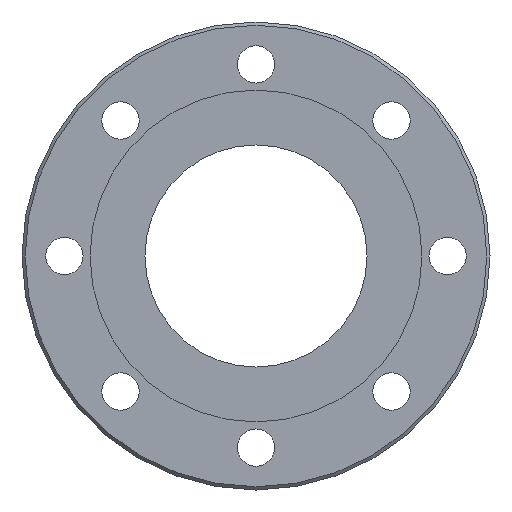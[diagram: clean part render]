
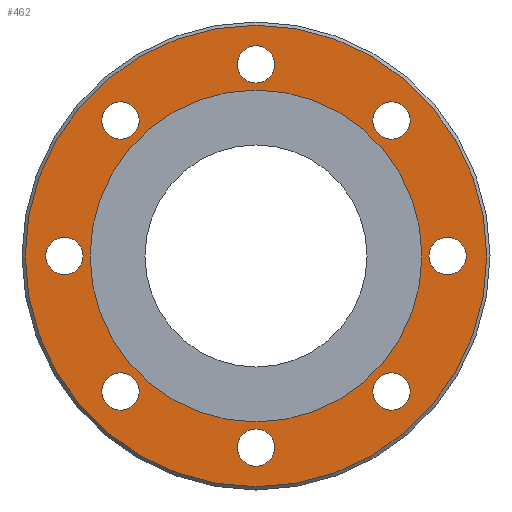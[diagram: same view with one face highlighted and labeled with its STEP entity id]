
A CAD part, left-side view. The second image highlights one B-rep face of the part: STEP entity #462.
In plain terms, the highlighted planar face has unit normal (-1, 0, 0).
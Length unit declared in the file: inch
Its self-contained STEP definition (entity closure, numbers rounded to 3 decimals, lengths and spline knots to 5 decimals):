
#15=FACE_BOUND('',#83,.T.);
#16=FACE_BOUND('',#84,.T.);
#17=FACE_BOUND('',#85,.T.);
#18=FACE_BOUND('',#86,.T.);
#19=FACE_BOUND('',#87,.T.);
#20=FACE_BOUND('',#88,.T.);
#21=FACE_BOUND('',#89,.T.);
#22=FACE_BOUND('',#90,.T.);
#23=FACE_BOUND('',#91,.T.);
#37=PLANE('',#510);
#59=FACE_OUTER_BOUND('',#82,.T.);
#82=EDGE_LOOP('',(#321));
#83=EDGE_LOOP('',(#322,#323));
#84=EDGE_LOOP('',(#324));
#85=EDGE_LOOP('',(#325));
#86=EDGE_LOOP('',(#326));
#87=EDGE_LOOP('',(#327));
#88=EDGE_LOOP('',(#328));
#89=EDGE_LOOP('',(#329));
#90=EDGE_LOOP('',(#330));
#91=EDGE_LOOP('',(#331));
#157=CIRCLE('',#504,4.2705);
#162=CIRCLE('',#511,3.071);
#163=CIRCLE('',#512,3.071);
#164=CIRCLE('',#513,0.345);
#165=CIRCLE('',#514,0.345);
#166=CIRCLE('',#515,0.345);
#167=CIRCLE('',#516,0.345);
#168=CIRCLE('',#517,0.345);
#169=CIRCLE('',#518,0.345);
#170=CIRCLE('',#519,0.345);
#171=CIRCLE('',#520,0.345);
#203=VERTEX_POINT('',#730);
#208=VERTEX_POINT('',#744);
#209=VERTEX_POINT('',#745);
#210=VERTEX_POINT('',#748);
#211=VERTEX_POINT('',#750);
#212=VERTEX_POINT('',#752);
#213=VERTEX_POINT('',#754);
#214=VERTEX_POINT('',#756);
#215=VERTEX_POINT('',#758);
#216=VERTEX_POINT('',#760);
#217=VERTEX_POINT('',#762);
#248=EDGE_CURVE('',#203,#203,#157,.T.);
#255=EDGE_CURVE('',#208,#209,#162,.T.);
#256=EDGE_CURVE('',#209,#208,#163,.T.);
#257=EDGE_CURVE('',#210,#210,#164,.T.);
#258=EDGE_CURVE('',#211,#211,#165,.T.);
#259=EDGE_CURVE('',#212,#212,#166,.T.);
#260=EDGE_CURVE('',#213,#213,#167,.T.);
#261=EDGE_CURVE('',#214,#214,#168,.T.);
#262=EDGE_CURVE('',#215,#215,#169,.T.);
#263=EDGE_CURVE('',#216,#216,#170,.T.);
#264=EDGE_CURVE('',#217,#217,#171,.T.);
#321=ORIENTED_EDGE('',*,*,#248,.F.);
#322=ORIENTED_EDGE('',*,*,#255,.F.);
#323=ORIENTED_EDGE('',*,*,#256,.F.);
#324=ORIENTED_EDGE('',*,*,#257,.T.);
#325=ORIENTED_EDGE('',*,*,#258,.T.);
#326=ORIENTED_EDGE('',*,*,#259,.T.);
#327=ORIENTED_EDGE('',*,*,#260,.T.);
#328=ORIENTED_EDGE('',*,*,#261,.T.);
#329=ORIENTED_EDGE('',*,*,#262,.T.);
#330=ORIENTED_EDGE('',*,*,#263,.T.);
#331=ORIENTED_EDGE('',*,*,#264,.T.);
#462=ADVANCED_FACE('',(#59,#15,#16,#17,#18,#19,#20,#21,#22,#23),#37,.T.);
#504=AXIS2_PLACEMENT_3D('',#731,#576,#577);
#510=AXIS2_PLACEMENT_3D('',#743,#590,#591);
#511=AXIS2_PLACEMENT_3D('',#746,#592,#593);
#512=AXIS2_PLACEMENT_3D('',#747,#594,#595);
#513=AXIS2_PLACEMENT_3D('',#749,#596,#597);
#514=AXIS2_PLACEMENT_3D('',#751,#598,#599);
#515=AXIS2_PLACEMENT_3D('',#753,#600,#601);
#516=AXIS2_PLACEMENT_3D('',#755,#602,#603);
#517=AXIS2_PLACEMENT_3D('',#757,#604,#605);
#518=AXIS2_PLACEMENT_3D('',#759,#606,#607);
#519=AXIS2_PLACEMENT_3D('',#761,#608,#609);
#520=AXIS2_PLACEMENT_3D('',#763,#610,#611);
#576=DIRECTION('center_axis',(1.,0.,0.));
#577=DIRECTION('ref_axis',(0.,-1.,0.));
#590=DIRECTION('center_axis',(-1.,0.,0.));
#591=DIRECTION('ref_axis',(0.,0.,1.));
#592=DIRECTION('center_axis',(-1.,0.,0.));
#593=DIRECTION('ref_axis',(0.,0.,1.));
#594=DIRECTION('center_axis',(-1.,0.,0.));
#595=DIRECTION('ref_axis',(0.,0.,1.));
#596=DIRECTION('center_axis',(1.,0.,0.));
#597=DIRECTION('ref_axis',(0.,0.,-1.));
#598=DIRECTION('center_axis',(1.,0.,0.));
#599=DIRECTION('ref_axis',(0.,-0.707,-0.707));
#600=DIRECTION('center_axis',(1.,0.,0.));
#601=DIRECTION('ref_axis',(0.,-1.,0.));
#602=DIRECTION('center_axis',(1.,0.,0.));
#603=DIRECTION('ref_axis',(0.,-0.707,0.707));
#604=DIRECTION('center_axis',(1.,0.,0.));
#605=DIRECTION('ref_axis',(0.,0.,
1.));
#606=DIRECTION('center_axis',(1.,0.,0.));
#607=DIRECTION('ref_axis',(0.,0.707,0.707));
#608=DIRECTION('center_axis',(1.,0.,0.));
#609=DIRECTION('ref_axis',(0.,1.,0.));
#610=DIRECTION('center_axis',(1.,0.,0.));
#611=DIRECTION('ref_axis',(0.,0.707,-0.707));
#730=CARTESIAN_POINT('',(-2.642,4.2705,0.));
#731=CARTESIAN_POINT('Origin',(-2.642,0.,0.));
#743=CARTESIAN_POINT('Origin',(-2.642,3.071,0.));
#744=CARTESIAN_POINT('',(-2.642,3.071,0.));
#745=CARTESIAN_POINT('',(-2.642,-3.071,0.));
#746=CARTESIAN_POINT('Origin',(-2.642,0.,0.));
#747=CARTESIAN_POINT('Origin',(-2.642,0.,0.));
#748=CARTESIAN_POINT('',(-2.642,0.,3.89));
#749=CARTESIAN_POINT('Origin',(-2.642,0.,3.545));
#750=CARTESIAN_POINT('',(-2.642,2.75065,2.75065));
#751=CARTESIAN_POINT('Origin',(-2.642,2.50669,2.50669));
#752=CARTESIAN_POINT('',(-2.642,3.89,0.));
#753=CARTESIAN_POINT('Origin',(-2.642,3.545,0.));
#754=CARTESIAN_POINT('',(-2.642,2.75065,-2.75065));
#755=CARTESIAN_POINT('Origin',(-2.642,2.50669,-2.50669));
#756=CARTESIAN_POINT('',(-2.642,0.,-3.89));
#757=CARTESIAN_POINT('Origin',(-2.642,0.,-3.545));
#758=CARTESIAN_POINT('',(-2.642,-2.75065,-2.75065));
#759=CARTESIAN_POINT('Origin',(-2.642,-2.50669,-2.50669));
#760=CARTESIAN_POINT('',(-2.642,-3.89,0.));
#761=CARTESIAN_POINT('Origin',(-2.642,-3.545,0.));
#762=CARTESIAN_POINT('',(-2.642,-2.75065,2.75065));
#763=CARTESIAN_POINT('Origin',(-2.642,-2.50669,2.50669));
